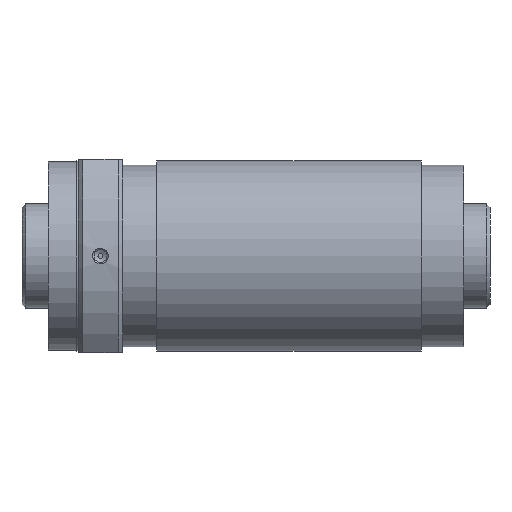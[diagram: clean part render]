
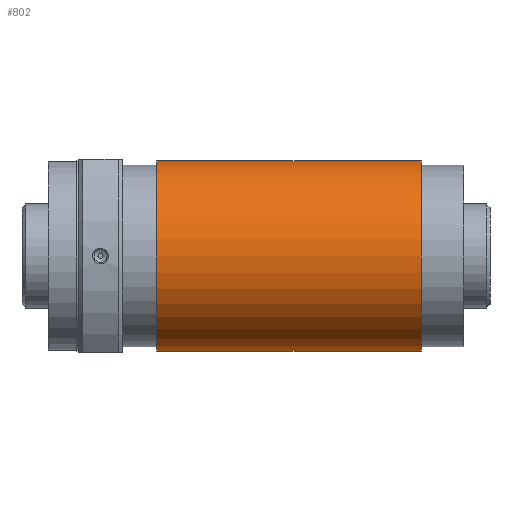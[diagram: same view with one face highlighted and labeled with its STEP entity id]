
A CAD part, front view. The second image highlights one B-rep face of the part: STEP entity #802.
In plain terms, the highlighted cylindrical face has radius 36.5 mm (diameter 73 mm), a full revolution.
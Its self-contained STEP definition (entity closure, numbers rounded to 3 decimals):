
#70=CYLINDRICAL_SURFACE('',#915,36.5);
#148=ORIENTED_EDGE('',*,*,#305,.T.);
#149=ORIENTED_EDGE('',*,*,#304,.F.);
#304=EDGE_CURVE('',#386,#386,#458,.T.);
#305=EDGE_CURVE('',#387,#387,#459,.T.);
#386=VERTEX_POINT('',#1395);
#387=VERTEX_POINT('',#1398);
#458=CIRCLE('',#914,36.5);
#459=CIRCLE('',#916,36.5);
#534=EDGE_LOOP('',(#148));
#535=EDGE_LOOP('',(#149));
#664=FACE_BOUND('',#534,.T.);
#665=FACE_BOUND('',#535,.T.);
#802=ADVANCED_FACE('',(#664,#665),#70,.T.);
#914=AXIS2_PLACEMENT_3D('',#1394,#1089,#1090);
#915=AXIS2_PLACEMENT_3D('',#1396,#1091,#1092);
#916=AXIS2_PLACEMENT_3D('',#1397,#1093,#1094);
#1089=DIRECTION('',(1.,0.,0.));
#1090=DIRECTION('',(0.,0.,-1.));
#1091=DIRECTION('',(1.,0.,0.));
#1092=DIRECTION('',(0.,0.,-1.));
#1093=DIRECTION('',(1.,0.,0.));
#1094=DIRECTION('',(0.,0.,-1.));
#1394=CARTESIAN_POINT('',(142.688,0.,0.));
#1395=CARTESIAN_POINT('',(142.688,0.,-36.5));
#1396=CARTESIAN_POINT('',(159.,0.,0.));
#1397=CARTESIAN_POINT('',(41.55,0.,0.));
#1398=CARTESIAN_POINT('',(41.55,0.,-36.5));
